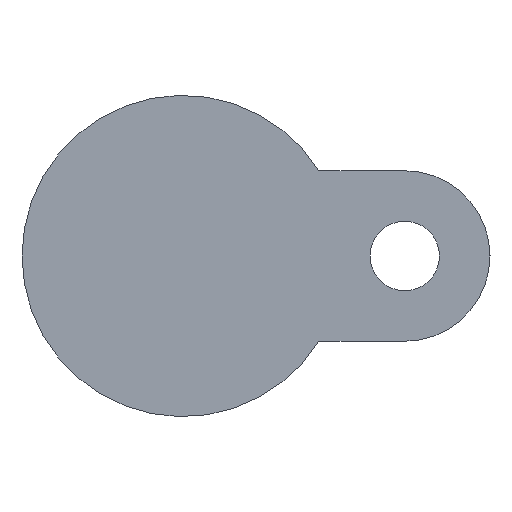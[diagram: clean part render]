
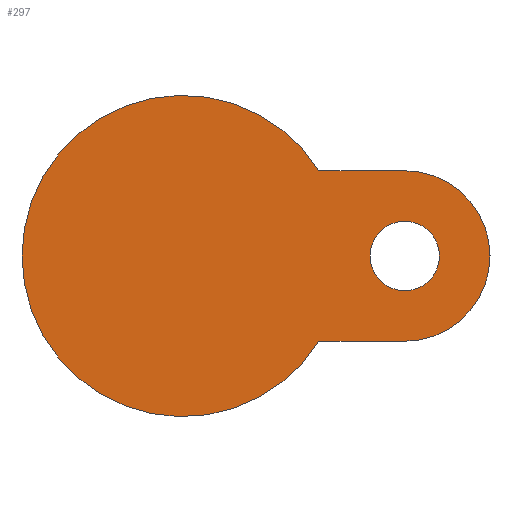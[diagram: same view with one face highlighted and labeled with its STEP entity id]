
A CAD part, front view. The second image highlights one B-rep face of the part: STEP entity #297.
In plain terms, the highlighted planar face has unit normal (0, -1, 0).
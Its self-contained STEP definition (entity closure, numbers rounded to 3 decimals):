
#13 = VERTEX_POINT ( 'NONE', #192 ) ;
#57 = DIRECTION ( 'NONE',  ( 1., 0., 0. ) ) ;
#65 = CARTESIAN_POINT ( 'NONE',  ( 56., -23., 0. ) ) ;
#155 = ORIENTED_EDGE ( 'NONE', *, *, #540, .T. ) ;
#169 = CARTESIAN_POINT ( 'NONE',  ( 47.25, -23., 0. ) ) ;
#176 = LINE ( 'NONE', #298, #835 ) ;
#180 = VERTEX_POINT ( 'NONE', #1260 ) ;
#192 = CARTESIAN_POINT ( 'NONE',  ( 34.322, -23., -21.5 ) ) ;
#196 = VERTEX_POINT ( 'NONE', #668 ) ;
#213 = ORIENTED_EDGE ( 'NONE', *, *, #877, .T. ) ;
#267 = CIRCLE ( 'NONE', #590, 21.5 ) ;
#268 = DIRECTION ( 'NONE',  ( -1., 0., 0. ) ) ;
#271 = CARTESIAN_POINT ( 'NONE',  ( 56., -23., 21.5 ) ) ;
#283 = VERTEX_POINT ( 'NONE', #169 ) ;
#297 = ADVANCED_FACE ( 'NONE', ( #956, #1412 ), #376, .T. ) ;
#298 = CARTESIAN_POINT ( 'NONE',  ( 30.5, -23., 21.5 ) ) ;
#328 = EDGE_CURVE ( 'NONE', #196, #13, #1095, .T. ) ;
#360 = ORIENTED_EDGE ( 'NONE', *, *, #1092, .T. ) ;
#366 = ORIENTED_EDGE ( 'NONE', *, *, #1310, .F. ) ;
#376 = PLANE ( 'NONE',  #990 ) ;
#387 = DIRECTION ( 'NONE',  ( 1., 0., 0. ) ) ;
#440 = DIRECTION ( 'NONE',  ( 0., 1., 0. ) ) ;
#466 = EDGE_LOOP ( 'NONE', ( #155, #213 ) ) ;
#537 = DIRECTION ( 'NONE',  ( -1., 0., 0. ) ) ;
#540 = EDGE_CURVE ( 'NONE', #283, #715, #1325, .T. ) ;
#559 = CARTESIAN_POINT ( 'NONE',  ( 0., -23., 0. ) ) ;
#590 = AXIS2_PLACEMENT_3D ( 'NONE', #1122, #1476, #774 ) ;
#621 = CIRCLE ( 'NONE', #1432, 40.5 ) ;
#634 = CARTESIAN_POINT ( 'NONE',  ( 40.5, -23., 0. ) ) ;
#635 = DIRECTION ( 'NONE',  ( 0., 1., 0. ) ) ;
#668 = CARTESIAN_POINT ( 'NONE',  ( 56., -23., -21.5 ) ) ;
#678 = CARTESIAN_POINT ( 'NONE',  ( 30.5, -23., -21.5 ) ) ;
#715 = VERTEX_POINT ( 'NONE', #1471 ) ;
#774 = DIRECTION ( 'NONE',  ( 1., 0., 0. ) ) ;
#835 = VECTOR ( 'NONE', #387, 1000. ) ;
#877 = EDGE_CURVE ( 'NONE', #715, #283, #1021, .T. ) ;
#956 = FACE_BOUND ( 'NONE', #466, .T. ) ;
#990 = AXIS2_PLACEMENT_3D ( 'NONE', #634, #1087, #57 ) ;
#1021 = CIRCLE ( 'NONE', #1355, 8.75 ) ;
#1031 = EDGE_CURVE ( 'NONE', #1378, #196, #267, .T. ) ;
#1038 = DIRECTION ( 'NONE',  ( 1., 0., 0. ) ) ;
#1087 = DIRECTION ( 'NONE',  ( 0., -1., 0. ) ) ;
#1092 = EDGE_CURVE ( 'NONE', #180, #13, #621, .T. ) ;
#1095 = LINE ( 'NONE', #678, #1323 ) ;
#1122 = CARTESIAN_POINT ( 'NONE',  ( 56., -23., 0. ) ) ;
#1260 = CARTESIAN_POINT ( 'NONE',  ( 34.322, -23., 21.5 ) ) ;
#1265 = CARTESIAN_POINT ( 'NONE',  ( 56., -23., 0. ) ) ;
#1310 = EDGE_CURVE ( 'NONE', #180, #1378, #176, .T. ) ;
#1323 = VECTOR ( 'NONE', #1339, 1000. ) ;
#1325 = CIRCLE ( 'NONE', #1447, 8.75 ) ;
#1339 = DIRECTION ( 'NONE',  ( -1., 0., 0. ) ) ;
#1355 = AXIS2_PLACEMENT_3D ( 'NONE', #1265, #440, #537 ) ;
#1378 = VERTEX_POINT ( 'NONE', #271 ) ;
#1380 = DIRECTION ( 'NONE',  ( 0., -1., 0. ) ) ;
#1399 = EDGE_LOOP ( 'NONE', ( #360, #1446, #1468, #366 ) ) ;
#1412 = FACE_OUTER_BOUND ( 'NONE', #1399, .T. ) ;
#1432 = AXIS2_PLACEMENT_3D ( 'NONE', #559, #1380, #1038 ) ;
#1446 = ORIENTED_EDGE ( 'NONE', *, *, #328, .F. ) ;
#1447 = AXIS2_PLACEMENT_3D ( 'NONE', #65, #635, #268 ) ;
#1468 = ORIENTED_EDGE ( 'NONE', *, *, #1031, .F. ) ;
#1471 = CARTESIAN_POINT ( 'NONE',  ( 64.75, -23., 0. ) ) ;
#1476 = DIRECTION ( 'NONE',  ( 0., 1., 0. ) ) ;
